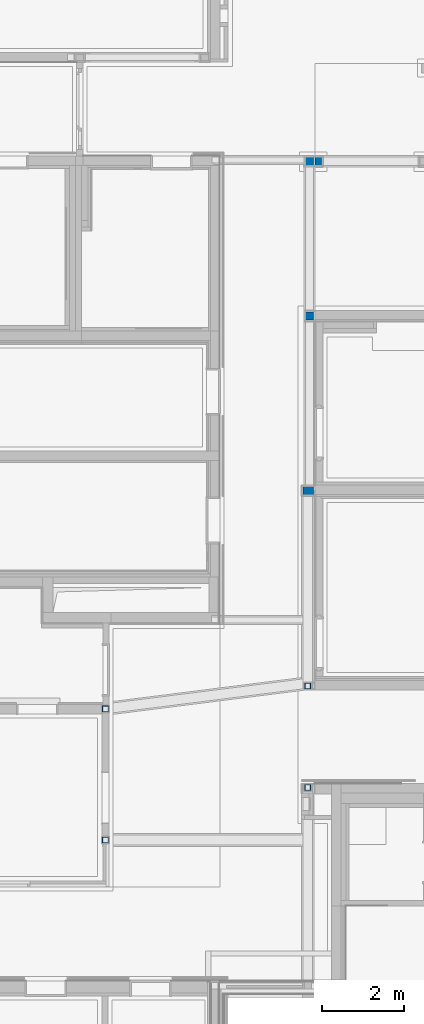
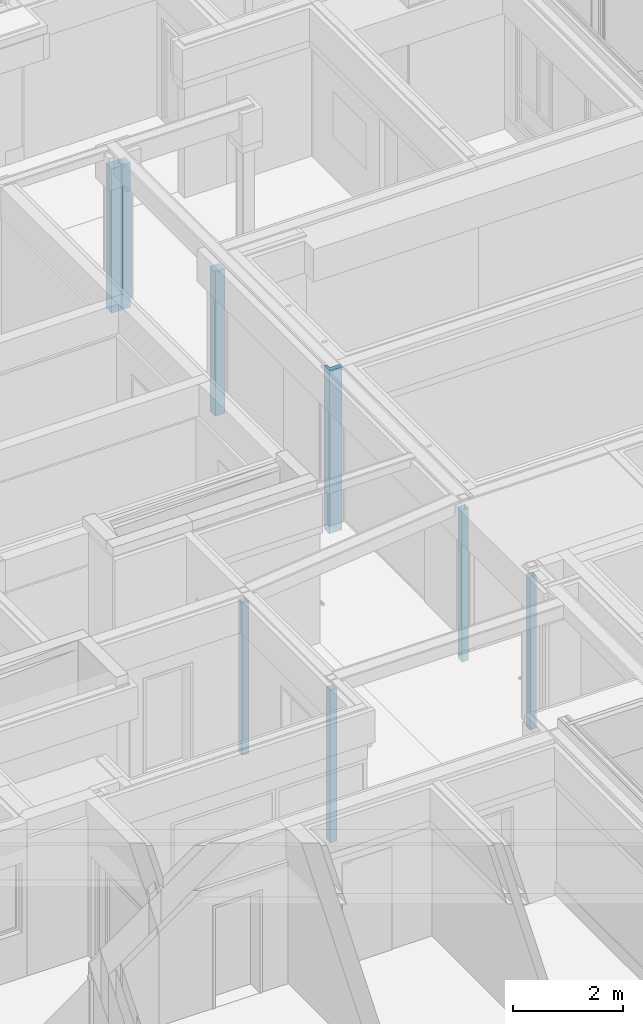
# One storey, part 3 of 207: 8 columns.
"""IFC4 building model written with IfcOpenShell, lengths in metres."""

import ifcopenshell
import ifcopenshell.guid

model = None  # the IFC model being written
_history = None  # IfcOwnerHistory: only IFC2X3 demands one
_inside = {}  # id of a spatial element -> (the spatial element, [elements in it])
_under = {}  # id of a project, library or spatial element -> (it, [spatial elements below it])
_declared = {}  # id of a project -> (the project, [libraries it declares])
_typed = {}  # id of a type object -> (the type object, [elements of that type])
_made_of = {}  # id of a material, layer set ... -> (it, [elements and type objects made of it])


def new_model(schema):
    """Start an empty IFC model of exactly this schema.

    Asked for "IFC4X3", IfcOpenShell would pick the latest addendum, in which some entities
    have other attributes; the version numbers below select the first issue.
    IFC2X3 requires an IfcOwnerHistory on every rooted entity: one is made here for all.
    """
    global model, _history
    if schema == "IFC4X3":
        model = ifcopenshell.file(schema_version=(4, 3, 0, 0))
    else:
        model = ifcopenshell.file(schema=schema)
    _inside.clear()
    _under.clear()
    _declared.clear()
    _typed.clear()
    _made_of.clear()
    _history = None
    if model.schema == "IFC2X3":
        org = make("IfcOrganization", Name="unknown")
        user = make(
            "IfcPersonAndOrganization",
            ThePerson=make("IfcPerson", FamilyName="unknown"),
            TheOrganization=org,
        )
        app = make(
            "IfcApplication",
            ApplicationDeveloper=org,
            Version="unknown",
            ApplicationFullName="unknown",
            ApplicationIdentifier="unknown",
        )
        _history = make(
            "IfcOwnerHistory",
            OwningUser=user,
            OwningApplication=app,
            ChangeAction="ADDED",
            CreationDate=0,
        )
    return model


def make(cls, **values):
    """One entity of the class cls with the attributes given. An attribute that is None is left unset."""
    return model.create_entity(
        cls, **{name: value for name, value in values.items() if value is not None}
    )


def entity(cls, *values):
    """Any entity or typed value of the class cls, its attributes in the order of the schema. None: left unset."""
    e = model.create_entity(cls)
    for i, value in enumerate(values):
        if value is not None:
            e[i] = value
    return e


def rooted(cls, **values):
    """An entity with a GlobalId (a new one), such as an element, a storey or a relation."""
    return make(cls, GlobalId=ifcopenshell.guid.new(), OwnerHistory=_history, **values)


def si_unit(unit_type, name, prefix=None):
    """IfcSIUnit, for example si_unit("LENGTHUNIT", "METRE", prefix="MILLI")."""
    return make("IfcSIUnit", UnitType=unit_type, Prefix=prefix, Name=name)


def converted_unit(unit_type, name, factor, base, dimensions=None, offset=None):
    """IfcConversionBasedUnit, such as the inch: factor (a typed value) times the base unit."""
    return make(
        "IfcConversionBasedUnit"
        if offset is None
        else "IfcConversionBasedUnitWithOffset",
        ConversionOffset=offset,
        Dimensions=None
        if dimensions is None
        else entity("IfcDimensionalExponents", *dimensions),
        UnitType=unit_type,
        Name=name,
        ConversionFactor=make(
            "IfcMeasureWithUnit", ValueComponent=factor, UnitComponent=base
        ),
    )


def derived_unit(unit_type, elements):
    """IfcDerivedUnit: a product of units, each with its exponent."""
    return make(
        "IfcDerivedUnit",
        Elements=[
            make("IfcDerivedUnitElement", Unit=unit, Exponent=power)
            for unit, power in elements
        ],
        UnitType=unit_type,
    )


def assignment(units):
    """IfcUnitAssignment: the units of a project."""
    return None if units is None else make("IfcUnitAssignment", Units=units)


def point(xyz):
    """IfcCartesianPoint."""
    return None if xyz is None else make("IfcCartesianPoint", Coordinates=xyz)


def direction(xyz):
    """IfcDirection."""
    return None if xyz is None else make("IfcDirection", DirectionRatios=xyz)


def frame(location, z_axis=None, x_axis=None):
    """IfcAxis2Placement3D, a coordinate frame: its origin and axes. An axis left out is left unset."""
    return make(
        "IfcAxis2Placement3D",
        Location=point(location),
        Axis=direction(z_axis),
        RefDirection=direction(x_axis),
    )


def frame_2d(location, x_axis=None):
    """IfcAxis2Placement2D, a coordinate frame in the plane: its origin and x axis."""
    return make(
        "IfcAxis2Placement2D", Location=point(location), RefDirection=direction(x_axis)
    )


def origin():
    """The frame at (0, 0, 0) with its axes left unset."""
    return frame((0.0, 0.0, 0.0))


def origin_with_axes():
    """The frame at (0, 0, 0) with the z axis (0, 0, 1) and the x axis (1, 0, 0) written out."""
    return frame((0.0, 0.0, 0.0), z_axis=(0.0, 0.0, 1.0), x_axis=(1.0, 0.0, 0.0))


def place(relative_to, where):
    """IfcLocalPlacement: puts the frame where relative to a parent placement (None: the world)."""
    return make(
        "IfcLocalPlacement", PlacementRelTo=relative_to, RelativePlacement=where
    )


def context(
    kind, dimensions, precision=None, world=None, true_north=None, identifier=None
):
    """IfcGeometricRepresentationContext, for example the 3D "Model" context."""
    return make(
        "IfcGeometricRepresentationContext",
        ContextIdentifier=identifier,
        ContextType=kind,
        CoordinateSpaceDimension=dimensions,
        Precision=precision,
        WorldCoordinateSystem=world,
        TrueNorth=true_north,
    )


def subcontext(parent, identifier, kind, view, scale=None):
    """IfcGeometricRepresentationSubContext, for example "Body" below "Model"."""
    return make(
        "IfcGeometricRepresentationSubContext",
        ContextIdentifier=identifier,
        ContextType=kind,
        ParentContext=parent,
        TargetScale=scale,
        TargetView=view,
    )


def project(units=None, contexts=None):
    """IfcProject with its units and contexts."""
    return rooted(
        "IfcProject",
        Name="project",
        RepresentationContexts=contexts,
        UnitsInContext=assignment(units),
    )


def spatial(cls, under=None, at=None, **own):
    """A site, building, storey or space (cls), placed at a placement, below another one or the project."""
    s = rooted(cls, ObjectPlacement=at, **own)
    if under is not None:
        _under.setdefault(under.id(), (under, []))[1].append(s)
    return s


def polyline(points):
    """IfcPolyline through the points."""
    return make("IfcPolyline", Points=[point(p) for p in points])


def profile(cls, at=None, kind="AREA", **sizes):
    """A parametric profile (cls). Its sizes go by their IFC names, for example OverallWidth=200.0."""
    return make(cls, ProfileType=kind, Position=at, **sizes)


def rectangle(**sizes):
    """IfcRectangleProfileDef."""
    return profile("IfcRectangleProfileDef", **sizes)


def outline(outer, holes=None, kind="AREA"):
    """IfcArbitraryClosedProfileDef: a profile drawn as a closed curve; with holes, ...WithVoids."""
    if holes is None:
        return make("IfcArbitraryClosedProfileDef", ProfileType=kind, OuterCurve=outer)
    return make(
        "IfcArbitraryProfileDefWithVoids",
        ProfileType=kind,
        OuterCurve=outer,
        InnerCurves=holes,
    )


def extrude(swept, where, along, depth):
    """IfcExtrudedAreaSolid: the profile swept, set in the frame where, extruded along a direction by depth."""
    return make(
        "IfcExtrudedAreaSolid",
        SweptArea=swept,
        Position=where,
        ExtrudedDirection=direction(along),
        Depth=depth,
    )


def clip(a, b, op="DIFFERENCE"):
    """IfcBooleanClippingResult: the solid a cut by the half space b."""
    return make(
        "IfcBooleanClippingResult", Operator=op, FirstOperand=a, SecondOperand=b
    )


def bounded_halfspace(plane, agree, where, boundary):
    """IfcPolygonalBoundedHalfSpace: a half space limited to a polygon's prism."""
    return make(
        "IfcPolygonalBoundedHalfSpace",
        BaseSurface=make("IfcPlane", Position=plane),
        AgreementFlag=agree,
        Position=where,
        PolygonalBoundary=boundary,
    )


def shape(context_of_items, identifier, shape_type, items):
    """IfcShapeRepresentation: the items that make up one representation, for example the "Body"."""
    return make(
        "IfcShapeRepresentation",
        ContextOfItems=context_of_items,
        RepresentationIdentifier=identifier,
        RepresentationType=shape_type,
        Items=items,
    )


def material(Name=None, Category=None):
    """IfcMaterial."""
    return make("IfcMaterial", Name=Name, Category=Category)


def made_of(thing, what):
    """Note that an element or type object is made of a material, layer set ...; save() writes the relation."""
    if what is not None:
        _made_of.setdefault(what.id(), (what, []))[1].append(thing)
    return thing


def element(
    cls,
    number,
    at=None,
    inside=None,
    cuts=None,
    type_object=None,
    material=None,
    context=None,
    identifier="Body",
    shape_type=None,
    held_by="IfcProductDefinitionShape",
    body=None,
    shapes=None,
    **own,
):
    """One element of the class cls, such as IfcWall. Its Tag is "e" and its number.

    at: its placement. inside: the storey or other place that contains it. cuts: it is an
    opening in that element (IfcRelVoidsElement). A single representation is given by context,
    identifier, shape_type and body (its items); several are given by shapes. held_by: the class
    of the entity that holds the representations. save() writes the other relations.
    """
    e = rooted(cls, Tag="e%d" % number, ObjectPlacement=at, **own)
    if body is not None:
        shapes = [shape(context, identifier, shape_type, body)]
    if shapes is not None:
        e.Representation = make(held_by, Representations=shapes)
    if inside is not None:
        _inside.setdefault(inside.id(), (inside, []))[1].append(e)
    if cuts is not None:
        rooted(
            "IfcRelVoidsElement", RelatingBuildingElement=cuts, RelatedOpeningElement=e
        )
    if type_object is not None:
        _typed.setdefault(type_object.id(), (type_object, []))[1].append(e)
    return made_of(e, material)


def aggregate(whole, parts):
    """IfcRelAggregates: a whole, such as a stair, and the parts it consists of."""
    return rooted("IfcRelAggregates", RelatingObject=whole, RelatedObjects=parts)


def save(model, path):
    """Write the relations noted so far, then the file.

    IfcRelAggregates (storeys below a building ...), IfcRelContainedInSpatialStructure (elements
    in a storey), IfcRelDefinesByType, IfcRelAssociatesMaterial and IfcRelDeclares: one each for
    every whole, place, type object, material and project.
    """
    for whole, parts in _under.values():
        aggregate(whole, parts)
    for where, things in _inside.values():
        rooted(
            "IfcRelContainedInSpatialStructure",
            RelatedElements=things,
            RelatingStructure=where,
        )
    for kind, things in _typed.values():
        rooted("IfcRelDefinesByType", RelatedObjects=things, RelatingType=kind)
    for what, things in _made_of.values():
        rooted("IfcRelAssociatesMaterial", RelatedObjects=things, RelatingMaterial=what)
    for by, libraries in _declared.values():
        rooted("IfcRelDeclares", RelatingContext=by, RelatedDefinitions=libraries)
    model.write(path)


model = new_model("IFC4")

# Units and contexts
model_context = context("Model", 3, precision=1e-05, world=origin())
body_context = subcontext(model_context, "Body", "Model", "MODEL_VIEW")
ifc_project = project(units=[si_unit("LENGTHUNIT", "METRE"), si_unit("AREAUNIT", "SQUARE_METRE"), si_unit("VOLUMEUNIT", "CUBIC_METRE"), si_unit("MASSUNIT", "GRAM", prefix="KILO"), converted_unit("PLANEANGLEUNIT", "DEGREE", entity("IfcPlaneAngleMeasure", 0.0174532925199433), si_unit("PLANEANGLEUNIT", "RADIAN"), dimensions=[0, 0, 0, 0, 0, 0, 0]), derived_unit("THERMALTRANSMITTANCEUNIT", [(si_unit("POWERUNIT", "WATT"), 1), (si_unit("THERMODYNAMICTEMPERATUREUNIT", "KELVIN"), -1), (si_unit("LENGTHUNIT", "METRE"), -2)]), derived_unit("VOLUMETRICFLOWRATEUNIT", [(si_unit("LENGTHUNIT", "METRE"), 3), (converted_unit("TIMEUNIT", "hour", entity("IfcTimeMeasure", 3600.0), si_unit("TIMEUNIT", "SECOND"), dimensions=[0, 0, 1, 0, 0, 0, 0]), -1), (si_unit("LENGTHUNIT", "METRE"), -1)])], contexts=[model_context])

# Site, building, storey
site_placement = place(None, origin())
site = spatial("IfcSite", under=ifc_project, at=site_placement, Name="Psychiatrie Neubau Wunstorf", CompositionType="ELEMENT")
building_placement = place(site_placement, origin())
building = spatial("IfcBuilding", under=site, at=building_placement, Name="Neubau H2 Stationsgebäude", CompositionType="ELEMENT")
storey_placement = place(building_placement, frame((0.0, 0.0, -0.2)))
storey = spatial("IfcBuildingStorey", under=building, at=storey_placement, Name="H2 Ebene 0", CompositionType="ELEMENT", Elevation=-0.2)

# Columns
ifc_material_1 = material(Name="QRO")
column_1_placement = place(storey_placement, frame((65.2649963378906, 7.07649963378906, 0.0)))
element("IfcColumn", 1, at=column_1_placement, inside=storey, material=ifc_material_1, Name="QRO 140x5", PredefinedType="COLUMN", context=body_context, shape_type="SweptSolid", body=[
    extrude(outline(polyline([(0.0, 0.0), (0.14, 0.0), (0.14, 0.14), (0.0, 0.14), (0.0, 0.0)]), holes=[polyline([(0.005, 0.005), (0.005, 0.135), (0.135, 0.135), (0.135, 0.005), (0.005, 0.005)])]), origin_with_axes(), (0.0, 0.0, 1.0), 3.37),
])
ifc_material_2 = material(Name="QRO")
column_2_placement = place(storey_placement, frame((65.2649963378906, 3.88999694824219, 0.0)))
element("IfcColumn", 2, at=column_2_placement, inside=storey, material=ifc_material_2, Name="QRO 140x5", PredefinedType="COLUMN", context=body_context, shape_type="SweptSolid", body=[
    extrude(outline(polyline([(0.0, 0.0), (0.14, 0.0), (0.14, 0.14), (0.0, 0.14), (0.0, 0.0)]), holes=[polyline([(0.005, 0.005), (0.005, 0.135), (0.135, 0.135), (0.135, 0.005), (0.005, 0.005)])]), origin_with_axes(), (0.0, 0.0, 1.0), 3.37),
])
ifc_material_3 = material(Name="QRO")
column_3_placement = place(storey_placement, frame((70.1849950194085, 5.1675, 0.0)))
element("IfcColumn", 3, at=column_3_placement, inside=storey, material=ifc_material_3, Name="QRO 140x5", PredefinedType="COLUMN", context=body_context, shape_type="SweptSolid", body=[
    extrude(outline(polyline([(0.0, 0.0), (0.14, 0.0), (0.14, 0.14), (0.0, 0.14), (0.0, 0.0)]), holes=[polyline([(0.005, 0.005), (0.005, 0.135), (0.135, 0.135), (0.135, 0.005), (0.005, 0.005)])]), origin_with_axes(), (0.0, 0.0, 1.0), 3.37),
])
ifc_material_4 = material(Name="QRO")
column_4_placement = place(storey_placement, frame((70.1849950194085, 7.63249981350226, 0.0)))
element("IfcColumn", 4, at=column_4_placement, inside=storey, material=ifc_material_4, Name="QRO 140x5", PredefinedType="COLUMN", context=body_context, shape_type="SweptSolid", body=[
    extrude(outline(polyline([(0.0, 0.0), (0.14, 0.0), (0.14, 0.14), (0.0, 0.14), (0.0, 0.0)]), holes=[polyline([(0.005, 0.005), (0.005, 0.135), (0.135, 0.135), (0.135, 0.005), (0.005, 0.005)])]), origin_with_axes(), (0.0, 0.0, 1.0), 3.37),
])
ifc_material_5 = material(Name="H-ST")
column_5_placement = place(storey_placement, frame((70.430000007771, 20.3559956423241, 0.0)))
element("IfcColumn", 5, at=column_5_placement, inside=storey, material=ifc_material_5, PredefinedType="COLUMN", context=body_context, shape_type="SweptSolid", body=[
    extrude(rectangle(XDim=0.16, YDim=0.2, at=frame_2d((0.08, 0.1), x_axis=(1.0, 0.0))), origin_with_axes(), (0.0, 0.0, 1.0), 3.2),
])
ifc_material_6 = material(Name="H-ST")
column_6_placement = place(storey_placement, frame((70.200000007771, 16.5965, 0.0)))
element("IfcColumn", 6, at=column_6_placement, inside=storey, material=ifc_material_6, PredefinedType="COLUMN", context=body_context, shape_type="SweptSolid", body=[
    extrude(rectangle(XDim=0.2, YDim=0.2, at=frame_2d((0.1, 0.1), x_axis=(1.0, 0.0))), origin_with_axes(), (0.0, 0.0, 1.0), 3.2),
])
ifc_material_7 = material(Name="H-ST")
column_7_placement = place(storey_placement, frame((70.400000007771, 12.5500595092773, 0.0)))
element("IfcColumn", 7, at=column_7_placement, inside=storey, material=ifc_material_7, PredefinedType="COLUMN", context=body_context, shape_type="Clipping", body=[
    clip(extrude(rectangle(XDim=0.265, YDim=0.2, at=frame_2d((-0.1325, -0.1), x_axis=(-1.0, 0.0))), origin_with_axes(), (0.0, 0.0, 1.0), 3.6), bounded_halfspace(frame((-0.0999969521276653, -0.05, 3.2), z_axis=(0.0, 0.0, -1.0), x_axis=(0.0, 1.0, 0.0)), True, origin_with_axes(), polyline([(0.0, -0.1), (0.0, 0.0), (-0.199993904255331, 0.0), (-0.199993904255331, -0.1), (0.0, -0.1)]))),
])
ifc_material_8 = material(Name="H-ST")
column_8_placement = place(storey_placement, frame((70.2000061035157, 20.3559973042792, 0.0)))
element("IfcColumn", 8, at=column_8_placement, inside=storey, material=ifc_material_8, PredefinedType="COLUMN", context=body_context, shape_type="SweptSolid", body=[
    extrude(rectangle(XDim=0.2, YDim=0.2, at=frame_2d((0.1, 0.1), x_axis=(1.0, 0.0))), origin_with_axes(), (0.0, 0.0, 1.0), 3.2),
])

save(model, "model.ifc")
